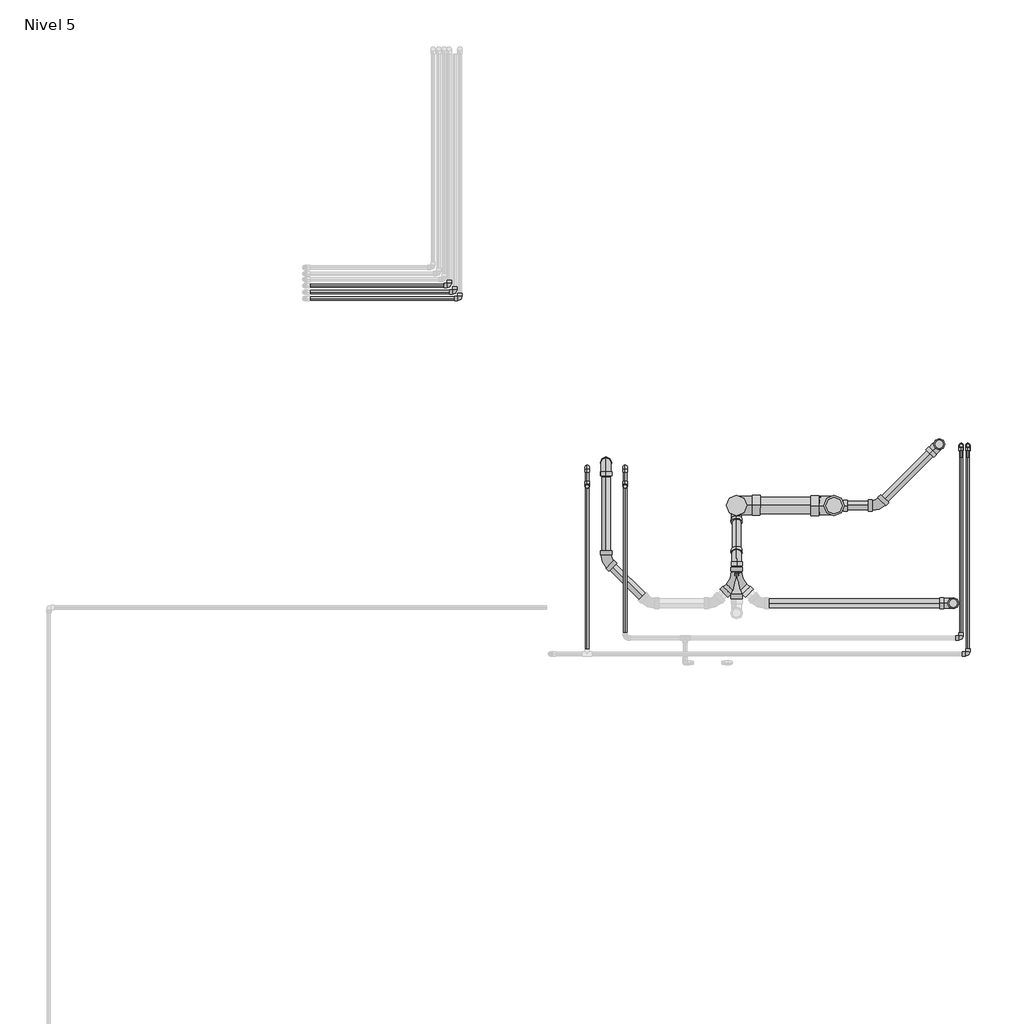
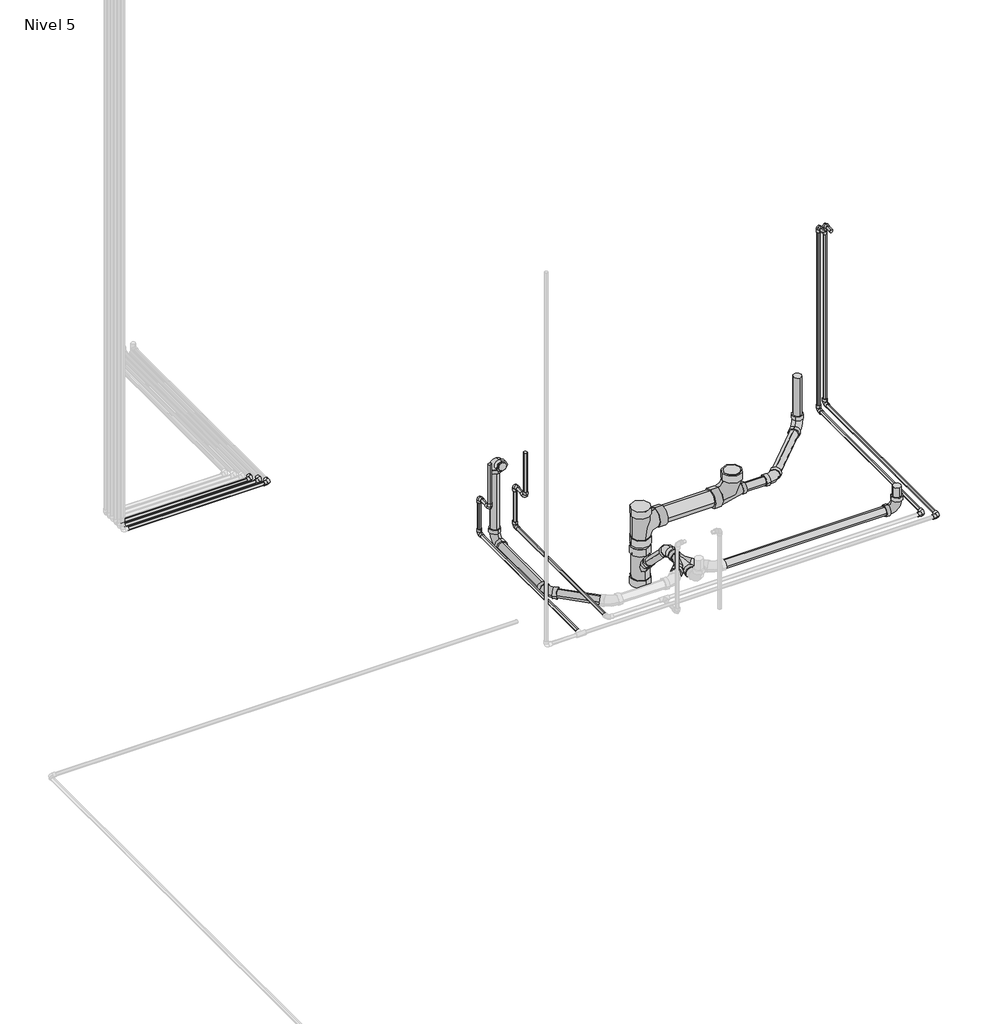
# One storey, part 4 of 6: 30 pipe segments, 26 pipe fittings.
"""IFC4 building model written with IfcOpenShell, lengths in millimetres."""

from ifc_helpers import new_model, si_unit, point, frame, frame_2d, origin, place, context, project, spatial, circle_curve, trimmed, segment, composite_curve, outline, extrude, transform, mapped, element, save
from components import pipe_fitting_2a8dfbef, pipe_fitting_44a425ca, pipe_fitting_a666eca6, pipe_fitting_a40889cd, m_codo_pvc_serie_40_9ad74631, m_codo_pvc_serie_40_ba05d404, m_codo_pvc_serie_40_dwv1_5c0ec739, m_codo_pvc_serie_40_dwv1_6f1a2495, m_codo_pvc_serie_40_dwv1_1ad01535

model = new_model("IFC4")

# Units and contexts
model_context = context("Model", 3, world=origin())
ifc_project = project(units=[si_unit("LENGTHUNIT", "METRE", prefix="MILLI")], contexts=[model_context])

# Site, building, storey
site = spatial("IfcSite", under=ifc_project)
building = spatial("IfcBuilding", under=site)
storey = spatial("IfcBuildingStorey", under=building, Name="Nivel 5", Elevation=10750.0)

# Pipe fittings
placement = place(None, origin())
pipe_fitting_shape = pipe_fitting_2a8dfbef(model_context)
element("IfcPipeFitting", 1, ObjectType="M_Sanitario con te de reducción - PVC - Serie 40 - DWV : Estándar", at=placement, inside=storey, context=model_context, shape_type="MappedRepresentation", body=[
    mapped(pipe_fitting_shape, transform((7432.3114332, 6556.6039726, 10600.0), x_axis=(0.0, 0.0, 1.0), y_axis=(-0.9999959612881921, 0.0028420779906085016, 0.0), z_axis=(-0.0028420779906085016, -0.9999959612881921, 0.0))),
])
pipe_fitting_2_shape = pipe_fitting_44a425ca(model_context)
element("IfcPipeFitting", 2, ObjectType="M_Sanitario con te de reducción - PVC - Serie 40 - DWV : Estándar", at=placement, inside=storey, context=model_context, shape_type="MappedRepresentation", body=[
    mapped(pipe_fitting_2_shape, transform((8039.6967866, 6555.7039726, 10600.0), x_axis=(1.0, 0.0, 0.0), y_axis=(0.0, 0.0, -1.0), z_axis=(0.0, 1.0, 0.0))),
])
pipe_fitting_3_shape = pipe_fitting_a666eca6(model_context)
element("IfcPipeFitting", 3, ObjectType="M_Sanitario con te doble con reducción - PVC - Serie 40 - DWV : Estándar", at=placement, inside=storey, context=model_context, shape_type="MappedRepresentation", body=[
    mapped(pipe_fitting_3_shape, transform((7432.5680049, 6087.6947184, 10600.0), x_axis=(0.0, -1.0, 0.0), y_axis=(-1.0, 0.0, 0.0), z_axis=(0.0, 0.0, -1.0))),
])
pipe_fitting_4_shape = pipe_fitting_a40889cd(model_context)
element("IfcPipeFitting", 4, ObjectType="M_Sanitario con te de reducción - PVC - Serie 40 - DWV : Estándar", at=placement, inside=storey, context=model_context, shape_type="MappedRepresentation", body=[
    mapped(pipe_fitting_4_shape, transform((7432.3114332, 6556.6039726, 10281.4426832), x_axis=(0.0, 0.0, 1.0), y_axis=(-0.001168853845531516, 0.9999993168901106, 0.0), z_axis=(-0.9999993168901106, -0.001168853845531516, 0.0))),
])
m_codo_pvc_serie_40_shape = m_codo_pvc_serie_40_9ad74631(model_context)
element("IfcPipeFitting", 5, ObjectType="M_Codo - PVC - Serie 40 : Estándar", at=placement, inside=storey, context=model_context, shape_type="MappedRepresentation", body=[
    mapped(m_codo_pvc_serie_40_shape, transform((8873.0126322, 5631.6711332, 10700.0), x_axis=(1.0, 0.0, 0.0), y_axis=(0.0, 1.0, 0.0), z_axis=(0.0, 0.0, 1.0))),
])
element("IfcPipeFitting", 6, ObjectType="M_Codo - PVC - Serie 40 : Estándar", at=placement, inside=storey, context=model_context, shape_type="MappedRepresentation", body=[
    mapped(m_codo_pvc_serie_40_shape, transform((8873.0126322, 6931.6711332, 10700.0), x_axis=(0.0, 1.0, 0.0), y_axis=(0.0, 0.0, 1.0), z_axis=(1.0, 0.0, 0.0))),
])
element("IfcPipeFitting", 7, ObjectType="M_Codo - PVC - Serie 40 : Estándar", at=placement, inside=storey, context=model_context, shape_type="MappedRepresentation", body=[
    mapped(m_codo_pvc_serie_40_shape, transform((8873.0126322, 6931.6711332, 11950.0), x_axis=(0.0, 0.0, 1.0), y_axis=(0.0, -1.0, 0.0), z_axis=(1.0, 0.0, 0.0))),
])
element("IfcPipeFitting", 8, ObjectType="M_Codo - PVC - Serie 40 : Estándar", at=placement, inside=storey, context=model_context, shape_type="MappedRepresentation", body=[
    mapped(m_codo_pvc_serie_40_shape, transform((6501.6215833, 6675.0992366, 10950.0), x_axis=(0.0, 0.0, -1.0), y_axis=(0.0, 1.0, 0.0), z_axis=(1.0, 0.0, 0.0))),
])
element("IfcPipeFitting", 9, ObjectType="M_Codo - PVC - Serie 40 : Estándar", at=placement, inside=storey, context=model_context, shape_type="MappedRepresentation", body=[
    mapped(m_codo_pvc_serie_40_shape, transform((6501.6215833, 6795.0992366, 10950.0), x_axis=(0.0, 1.0, 0.0), y_axis=(0.0, 0.0, -1.0), z_axis=(-1.0, 0.0, 0.0))),
])
element("IfcPipeFitting", 10, ObjectType="M_Codo - PVC - Serie 40 : Estándar", at=placement, inside=storey, context=model_context, shape_type="MappedRepresentation", body=[
    mapped(m_codo_pvc_serie_40_shape, transform((6501.6215833, 6795.0992366, 10700.0), x_axis=(0.0, 0.0, -1.0), y_axis=(0.0, -1.0, 0.0), z_axis=(-1.0, 0.0, 0.0))),
])
element("IfcPipeFitting", 11, ObjectType="M_Codo - PVC - Serie 40 : Estándar", at=placement, inside=storey, context=model_context, shape_type="MappedRepresentation", body=[
    mapped(m_codo_pvc_serie_40_shape, transform((8831.6896051, 6931.6711332, 10670.0), x_axis=(0.0, 1.0, 0.0), y_axis=(0.0, 0.0, 1.0), z_axis=(1.0, 0.0, 0.0))),
])
element("IfcPipeFitting", 12, ObjectType="M_Codo - PVC - Serie 40 : Estándar", at=placement, inside=storey, context=model_context, shape_type="MappedRepresentation", body=[
    mapped(m_codo_pvc_serie_40_shape, transform((8831.6896051, 6931.6711332, 11950.0), x_axis=(0.0, 0.0, 1.0), y_axis=(0.0, -1.0, 0.0), z_axis=(1.0, 0.0, 0.0))),
])
element("IfcPipeFitting", 13, ObjectType="M_Codo - PVC - Serie 40 : Estándar", at=placement, inside=storey, context=model_context, shape_type="MappedRepresentation", body=[
    mapped(m_codo_pvc_serie_40_shape, transform((6738.3784167, 6795.0992366, 10670.0), x_axis=(0.0, 0.0, -1.0), y_axis=(0.0, -1.0, 0.0), z_axis=(-1.0, 0.0, 0.0))),
])
element("IfcPipeFitting", 14, ObjectType="M_Codo - PVC - Serie 40 : Estándar", at=placement, inside=storey, context=model_context, shape_type="MappedRepresentation", body=[
    mapped(m_codo_pvc_serie_40_shape, transform((8831.6896051, 5731.9268515, 10670.0), x_axis=(1.0, 0.0, 0.0), y_axis=(0.0, 1.0, 0.0), z_axis=(0.0, 0.0, 1.0))),
])
element("IfcPipeFitting", 15, ObjectType="M_Codo - PVC - Serie 40 : Estándar", at=placement, inside=storey, context=model_context, shape_type="MappedRepresentation", body=[
    mapped(m_codo_pvc_serie_40_shape, transform((5642.0674476, 7924.5181394, 10700.0), x_axis=(1.0, 0.0, 0.0), y_axis=(0.0, 1.0, 0.0), z_axis=(0.0, 0.0, 1.0))),
])
element("IfcPipeFitting", 16, ObjectType="M_Codo - PVC - Serie 40 : Estándar", at=placement, inside=storey, context=model_context, shape_type="MappedRepresentation", body=[
    mapped(m_codo_pvc_serie_40_shape, transform((5676.6630441, 7884.5181394, 10700.0), x_axis=(1.0, 0.0, 0.0), y_axis=(0.0, 1.0, 0.0), z_axis=(0.0, 0.0, 1.0))),
])
element("IfcPipeFitting", 17, ObjectType="M_Codo - PVC - Serie 40 : Estándar", at=placement, inside=storey, context=model_context, shape_type="MappedRepresentation", body=[
    mapped(m_codo_pvc_serie_40_shape, transform((5709.5674476, 7844.5181394, 10700.0), x_axis=(1.0, 0.0, 0.0), y_axis=(0.0, 1.0, 0.0), z_axis=(0.0, 0.0, 1.0))),
])
m_codo_pvc_serie_40_2_shape = m_codo_pvc_serie_40_ba05d404(model_context)
element("IfcPipeFitting", 18, ObjectType="M_Codo - PVC - Serie 40 : Estándar", at=placement, inside=storey, context=model_context, shape_type="MappedRepresentation", body=[
    mapped(m_codo_pvc_serie_40_2_shape, transform((6738.3784167, 6675.0992366, 10950.0), x_axis=(0.0, 0.0, -1.0), y_axis=(0.0, -1.0, 0.0), z_axis=(-1.0, 0.0, 0.0))),
])
element("IfcPipeFitting", 19, ObjectType="M_Codo - PVC - Serie 40 : Estándar", at=placement, inside=storey, context=model_context, shape_type="MappedRepresentation", body=[
    mapped(m_codo_pvc_serie_40_2_shape, transform((6738.3784167, 6795.0992366, 10950.0), x_axis=(0.0, 1.0, 0.0), y_axis=(0.0, 0.0, 1.0), z_axis=(1.0, 0.0, 0.0))),
])
m_codo_pvc_serie_40_dwv1_shape = m_codo_pvc_serie_40_dwv1_5c0ec739(model_context)
element("IfcPipeFitting", 20, ObjectType="M_Codo - PVC - Serie 40 - DWV1 : Estándar 2", at=placement, inside=storey, context=model_context, shape_type="MappedRepresentation", body=[
    mapped(m_codo_pvc_serie_40_dwv1_shape, transform((6620.0, 6822.9419634, 11160.6716548), x_axis=(0.0, 1.0, 0.0), y_axis=(0.0, 0.0, -1.0), z_axis=(-1.0, 0.0, 0.0))),
])
element("IfcPipeFitting", 21, ObjectType="M_Codo - PVC - Serie 40 - DWV1 : Estándar 2", at=placement, inside=storey, context=model_context, shape_type="MappedRepresentation", body=[
    mapped(m_codo_pvc_serie_40_dwv1_shape, transform((6620.0, 6822.9419634, 10600.0), x_axis=(0.0, 0.0, -1.0), y_axis=(0.0, -1.0, 0.0), z_axis=(-1.0, 0.0, 0.0))),
])
element("IfcPipeFitting", 22, ObjectType="M_Codo - PVC - Serie 40 - DWV1 : Estándar 2", at=placement, inside=storey, context=model_context, shape_type="MappedRepresentation", body=[
    mapped(m_codo_pvc_serie_40_dwv1_shape, transform((8694.3719899, 6937.5416345, 10600.0), x_axis=(0.7071067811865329, 0.7071067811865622, 0.0), y_axis=(0.0, 0.0, 1.0), z_axis=(0.7071067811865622, -0.7071067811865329, 0.0))),
])
element("IfcPipeFitting", 23, ObjectType="M_Codo - PVC - Serie 40 - DWV1 : Estándar 2", at=placement, inside=storey, context=model_context, shape_type="MappedRepresentation", body=[
    mapped(m_codo_pvc_serie_40_dwv1_shape, transform((8781.5089391, 5947.7956387, 10600.0), x_axis=(1.0, 0.0, 0.0), y_axis=(0.0, 0.0, 1.0), z_axis=(0.0, -1.0, 0.0))),
])
m_codo_pvc_serie_40_dwv1_2_shape = m_codo_pvc_serie_40_dwv1_6f1a2495(model_context)
element("IfcPipeFitting", 24, ObjectType="M_Codo - PVC - Serie 40 - DWV1 : Estándar 2", at=placement, inside=storey, context=model_context, shape_type="MappedRepresentation", body=[
    mapped(m_codo_pvc_serie_40_dwv1_2_shape, transform((6620.0, 6215.0, 10600.0), x_axis=(0.0, -1.0, 0.0), y_axis=(1.0, 0.0, 0.0), z_axis=(0.0, 0.0, 1.0))),
])
element("IfcPipeFitting", 25, ObjectType="M_Codo - PVC - Serie 40 - DWV1 : Estándar 2", at=placement, inside=storey, context=model_context, shape_type="MappedRepresentation", body=[
    mapped(m_codo_pvc_serie_40_dwv1_2_shape, transform((8312.5343281, 6556.1867102, 10600.0), x_axis=(1.0, 0.0, 0.0), y_axis=(0.0, 1.0, 0.0), z_axis=(0.0, 0.0, 1.0))),
])
m_codo_pvc_serie_40_dwv1_3_shape = m_codo_pvc_serie_40_dwv1_1ad01535(model_context)
element("IfcPipeFitting", 26, ObjectType="M_Codo - PVC - Serie 40 - DWV1 : Estándar 2", at=placement, inside=storey, context=model_context, shape_type="MappedRepresentation", body=[
    mapped(m_codo_pvc_serie_40_dwv1_3_shape, transform((7432.6837803, 6238.0467912, 10599.9998647), x_axis=(0.0, 1.0, 0.0), y_axis=(-0.0011688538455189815, 0.0, -0.9999993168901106), z_axis=(-0.9999993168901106, 0.0, 0.0011688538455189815))),
])

# Pipe segments
element("IfcPipeSegment", 27, ObjectType="Tuberia PVC VENTILACION", at=placement, inside=storey, context=model_context, shape_type="SweptSolid", body=[
    extrude(outline(composite_curve([segment(trimmed(circle_curve(frame_2d((6556.1867102, 10600.0)), 26.9875), [point((6529.1992102, 10600.0))], [point((6556.1867102, 10626.9875))], False, "CARTESIAN"), True, "CONTINUOUS"), segment(trimmed(circle_curve(frame_2d((6556.1867102, 10600.0)), 26.9875), [point((6556.1867102, 10626.9875))], [point((6583.1742102, 10600.0))], False, "CARTESIAN"), True, "CONTINUOUS"), segment(trimmed(circle_curve(frame_2d((6556.1867102, 10600.0)), 26.9875), [point((6583.1742102, 10600.0))], [point((6556.1867102, 10573.0125))], False, "CARTESIAN"), True, "CONTINUOUS"), segment(trimmed(circle_curve(frame_2d((6556.1867102, 10600.0)), 26.9875), [point((6556.1867102, 10573.0125))], [point((6529.1992102, 10600.0))], False, "CARTESIAN"), True, "CONTINUOUS")], self_intersect=False)), frame((8121.6263281, 0.0, 0.0), z_axis=(1.0, 0.0, 0.0), x_axis=(0.0, 1.0, 0.0)), (0.0, 0.0, 1.0), 130.4798125),
])
element("IfcPipeSegment", 28, ObjectType="Tuberia PVC VENTILACION", at=placement, inside=storey, context=model_context, shape_type="SweptSolid", body=[
    extrude(outline(composite_curve([segment(trimmed(circle_curve(frame_2d((0.0, 26.9875)), 26.9875), [point((26.9875001, 26.9875))], [point((0.0, 0.0))], False, "CARTESIAN"), True, "CONTINUOUS"), segment(trimmed(circle_curve(frame_2d((0.0, 26.9875)), 26.9875), [point((0.0, 0.0))], [point((-26.9874999, 26.9875))], False, "CARTESIAN"), True, "CONTINUOUS"), segment(trimmed(circle_curve(frame_2d((0.0, 26.9875)), 26.9875), [point((-26.9874999, 26.9875))], [point((0.0, 53.975))], False, "CARTESIAN"), True, "CONTINUOUS"), segment(trimmed(circle_curve(frame_2d((0.0, 26.9875)), 26.9875), [point((0.0, 53.975))], [point((26.9875001, 26.9875))], False, "CARTESIAN"), True, "CONTINUOUS")], self_intersect=False)), frame((8355.2635092, 6598.9158914, 10626.9875), z_axis=(0.7071067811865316, 0.7071067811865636, 0.0), x_axis=(0.7071067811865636, -0.7071067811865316, 0.0)), (0.0, 0.0, 1.0), 396.688403),
])
element("IfcPipeSegment", 29, ObjectType="Tuberia PVC VENTILACION", at=placement, inside=storey, context=model_context, shape_type="SweptSolid", body=[
    extrude(outline(composite_curve([segment(trimmed(circle_curve(frame_2d((8694.3719899, 6937.5416345)), 26.9875), [point((8721.3594899, 6937.5416345))], [point((8694.3719899, 6910.5541345))], False, "CARTESIAN"), True, "CONTINUOUS"), segment(trimmed(circle_curve(frame_2d((8694.3719899, 6937.5416345)), 26.9875), [point((8694.3719899, 6910.5541345))], [point((8667.3844899, 6937.5416345))], False, "CARTESIAN"), True, "CONTINUOUS"), segment(trimmed(circle_curve(frame_2d((8694.3719899, 6937.5416345)), 26.9875), [point((8667.3844899, 6937.5416345))], [point((8694.3719899, 6964.5291345))], False, "CARTESIAN"), True, "CONTINUOUS"), segment(trimmed(circle_curve(frame_2d((8694.3719899, 6937.5416345)), 26.9875), [point((8694.3719899, 6964.5291345))], [point((8721.3594899, 6937.5416345))], False, "CARTESIAN"), True, "CONTINUOUS")], self_intersect=False)), frame((0.0, 0.0, 10682.5420625), z_axis=(0.0, 0.0, 1.0), x_axis=(1.0, 0.0, 0.0)), (0.0, 0.0, 1.0), 267.4579375),
])
element("IfcPipeSegment", 30, ObjectType="Tuberia PVC Agua Fria", at=placement, inside=storey, context=model_context, shape_type="SweptSolid", body=[
    extrude(outline(composite_curve([segment(trimmed(circle_curve(frame_2d((10700.0, 8873.0126322)), 10.31875), [point((10700.0, 8883.3313822))], [point((10710.31875, 8873.0126322))], False, "CARTESIAN"), True, "CONTINUOUS"), segment(trimmed(circle_curve(frame_2d((10700.0, 8873.0126322)), 10.31875), [point((10710.31875, 8873.0126322))], [point((10700.0, 8862.6938822))], False, "CARTESIAN"), True, "CONTINUOUS"), segment(trimmed(circle_curve(frame_2d((10700.0, 8873.0126322)), 10.31875), [point((10700.0, 8862.6938822))], [point((10689.68125, 8873.0126322))], False, "CARTESIAN"), True, "CONTINUOUS"), segment(trimmed(circle_curve(frame_2d((10700.0, 8873.0126322)), 10.31875), [point((10689.68125, 8873.0126322))], [point((10700.0, 8883.3313822))], False, "CARTESIAN"), True, "CONTINUOUS")], self_intersect=False)), frame((0.0, 5665.0721332, 0.0), z_axis=(0.0, 1.0, 0.0), x_axis=(0.0, 0.0, 1.0)), (0.0, 0.0, 1.0), 1233.198),
])
element("IfcPipeSegment", 31, ObjectType="Tuberia PVC Agua Fria", at=placement, inside=storey, context=model_context, shape_type="SweptSolid", body=[
    extrude(outline(composite_curve([segment(trimmed(circle_curve(frame_2d((11950.0, 8873.0126322)), 10.31875), [point((11950.0, 8862.6938822))], [point((11939.68125, 8873.0126322))], False, "CARTESIAN"), True, "CONTINUOUS"), segment(trimmed(circle_curve(frame_2d((11950.0, 8873.0126322)), 10.31875), [point((11939.68125, 8873.0126322))], [point((11950.0, 8883.3313822))], False, "CARTESIAN"), True, "CONTINUOUS"), segment(trimmed(circle_curve(frame_2d((11950.0, 8873.0126322)), 10.31875), [point((11950.0, 8883.3313822))], [point((11960.31875, 8873.0126322))], False, "CARTESIAN"), True, "CONTINUOUS"), segment(trimmed(circle_curve(frame_2d((11950.0, 8873.0126322)), 10.31875), [point((11960.31875, 8873.0126322))], [point((11950.0, 8862.6938822))], False, "CARTESIAN"), True, "CONTINUOUS")], self_intersect=False)), frame((0.0, 6856.6711332, 0.0), z_axis=(0.0, 1.0, 0.0), x_axis=(0.0, 0.0, 1.0)), (0.0, 0.0, 1.0), 41.599),
])
element("IfcPipeSegment", 32, ObjectType="Tuberia PVC Agua Fria", at=placement, inside=storey, context=model_context, shape_type="SweptSolid", body=[
    extrude(outline(composite_curve([segment(trimmed(circle_curve(frame_2d((8873.0126322, 6931.6711332)), 10.31875), [point((8862.6938822, 6931.6711332))], [point((8873.0126322, 6941.9898832))], False, "CARTESIAN"), True, "CONTINUOUS"), segment(trimmed(circle_curve(frame_2d((8873.0126322, 6931.6711332)), 10.31875), [point((8873.0126322, 6941.9898832))], [point((8883.3313822, 6931.6711332))], False, "CARTESIAN"), True, "CONTINUOUS"), segment(trimmed(circle_curve(frame_2d((8873.0126322, 6931.6711332)), 10.31875), [point((8883.3313822, 6931.6711332))], [point((8873.0126322, 6921.3523832))], False, "CARTESIAN"), True, "CONTINUOUS"), segment(trimmed(circle_curve(frame_2d((8873.0126322, 6931.6711332)), 10.31875), [point((8873.0126322, 6921.3523832))], [point((8862.6938822, 6931.6711332))], False, "CARTESIAN"), True, "CONTINUOUS")], self_intersect=False)), frame((0.0, 0.0, 10733.401), z_axis=(0.0, 0.0, 1.0), x_axis=(1.0, 0.0, 0.0)), (0.0, 0.0, 1.0), 1183.198),
])
element("IfcPipeSegment", 33, ObjectType="Tuberia PVC Agua Fria", at=placement, inside=storey, context=model_context, shape_type="SweptSolid", body=[
    extrude(outline(composite_curve([segment(trimmed(circle_curve(frame_2d((10950.0, 6501.6215833)), 10.31875), [point((10950.0, 6511.9403333))], [point((10960.31875, 6501.6215833))], False, "CARTESIAN"), True, "CONTINUOUS"), segment(trimmed(circle_curve(frame_2d((10950.0, 6501.6215833)), 10.31875), [point((10960.31875, 6501.6215833))], [point((10950.0, 6491.3028333))], False, "CARTESIAN"), True, "CONTINUOUS"), segment(trimmed(circle_curve(frame_2d((10950.0, 6501.6215833)), 10.31875), [point((10950.0, 6491.3028333))], [point((10939.68125, 6501.6215833))], False, "CARTESIAN"), True, "CONTINUOUS"), segment(trimmed(circle_curve(frame_2d((10950.0, 6501.6215833)), 10.31875), [point((10939.68125, 6501.6215833))], [point((10950.0, 6511.9403333))], False, "CARTESIAN"), True, "CONTINUOUS")], self_intersect=False)), frame((0.0, 6708.5002366, 0.0), z_axis=(0.0, 1.0, 0.0), x_axis=(0.0, 0.0, 1.0)), (0.0, 0.0, 1.0), 53.198),
])
element("IfcPipeSegment", 34, ObjectType="Tuberia PVC Agua Fria", at=placement, inside=storey, context=model_context, shape_type="SweptSolid", body=[
    extrude(outline(composite_curve([segment(trimmed(circle_curve(frame_2d((6501.6215833, 6675.0992366)), 10.31875), [point((6511.9403333, 6675.0992366))], [point((6501.6215833, 6664.7804866))], False, "CARTESIAN"), True, "CONTINUOUS"), segment(trimmed(circle_curve(frame_2d((6501.6215833, 6675.0992366)), 10.31875), [point((6501.6215833, 6664.7804866))], [point((6491.3028333, 6675.0992366))], False, "CARTESIAN"), True, "CONTINUOUS"), segment(trimmed(circle_curve(frame_2d((6501.6215833, 6675.0992366)), 10.31875), [point((6491.3028333, 6675.0992366))], [point((6501.6215833, 6685.4179866))], False, "CARTESIAN"), True, "CONTINUOUS"), segment(trimmed(circle_curve(frame_2d((6501.6215833, 6675.0992366)), 10.31875), [point((6501.6215833, 6685.4179866))], [point((6511.9403333, 6675.0992366))], False, "CARTESIAN"), True, "CONTINUOUS")], self_intersect=False)), frame((0.0, 0.0, 10983.401), z_axis=(0.0, 0.0, 1.0), x_axis=(1.0, 0.0, 0.0)), (0.0, 0.0, 1.0), 274.0983614),
])
element("IfcPipeSegment", 35, ObjectType="Tuberia PVC Agua Fria", at=placement, inside=storey, context=model_context, shape_type="SweptSolid", body=[
    extrude(outline(composite_curve([segment(trimmed(circle_curve(frame_2d((10700.0, 6501.6215833)), 10.31875), [point((10700.0, 6511.9403333))], [point((10710.31875, 6501.6215833))], False, "CARTESIAN"), True, "CONTINUOUS"), segment(trimmed(circle_curve(frame_2d((10700.0, 6501.6215833)), 10.31875), [point((10710.31875, 6501.6215833))], [point((10700.0, 6491.3028333))], False, "CARTESIAN"), True, "CONTINUOUS"), segment(trimmed(circle_curve(frame_2d((10700.0, 6501.6215833)), 10.31875), [point((10700.0, 6491.3028333))], [point((10689.68125, 6501.6215833))], False, "CARTESIAN"), True, "CONTINUOUS"), segment(trimmed(circle_curve(frame_2d((10700.0, 6501.6215833)), 10.31875), [point((10689.68125, 6501.6215833))], [point((10700.0, 6511.9403333))], False, "CARTESIAN"), True, "CONTINUOUS")], self_intersect=False)), frame((0.0, 5662.1312895, 0.0), z_axis=(0.0, 1.0, 0.0), x_axis=(0.0, 0.0, 1.0)), (0.0, 0.0, 1.0), 1099.5669472),
])
element("IfcPipeSegment", 36, ObjectType="Tuberia PVC Agua Fria", at=placement, inside=storey, context=model_context, shape_type="SweptSolid", body=[
    extrude(outline(composite_curve([segment(trimmed(circle_curve(frame_2d((6501.6215833, 6795.0992366)), 10.31875), [point((6511.9403333, 6795.0992366))], [point((6501.6215833, 6784.7804866))], False, "CARTESIAN"), True, "CONTINUOUS"), segment(trimmed(circle_curve(frame_2d((6501.6215833, 6795.0992366)), 10.31875), [point((6501.6215833, 6784.7804866))], [point((6491.3028333, 6795.0992366))], False, "CARTESIAN"), True, "CONTINUOUS"), segment(trimmed(circle_curve(frame_2d((6501.6215833, 6795.0992366)), 10.31875), [point((6491.3028333, 6795.0992366))], [point((6501.6215833, 6805.4179866))], False, "CARTESIAN"), True, "CONTINUOUS"), segment(trimmed(circle_curve(frame_2d((6501.6215833, 6795.0992366)), 10.31875), [point((6501.6215833, 6805.4179866))], [point((6511.9403333, 6795.0992366))], False, "CARTESIAN"), True, "CONTINUOUS")], self_intersect=False)), frame((0.0, 0.0, 10733.401), z_axis=(0.0, 0.0, 1.0), x_axis=(1.0, 0.0, 0.0)), (0.0, 0.0, 1.0), 183.198),
])
element("IfcPipeSegment", 37, ObjectType="Tuberia PVC Agua Fria", at=placement, inside=storey, context=model_context, shape_type="SweptSolid", body=[
    extrude(outline(composite_curve([segment(trimmed(circle_curve(frame_2d((7924.5181394, 10700.0)), 10.31875), [point((7934.8368894, 10700.0))], [point((7924.5181394, 10689.68125))], False, "CARTESIAN"), True, "CONTINUOUS"), segment(trimmed(circle_curve(frame_2d((7924.5181394, 10700.0)), 10.31875), [point((7924.5181394, 10689.68125))], [point((7914.1993894, 10700.0))], False, "CARTESIAN"), True, "CONTINUOUS"), segment(trimmed(circle_curve(frame_2d((7924.5181394, 10700.0)), 10.31875), [point((7914.1993894, 10700.0))], [point((7924.5181394, 10710.31875))], False, "CARTESIAN"), True, "CONTINUOUS"), segment(trimmed(circle_curve(frame_2d((7924.5181394, 10700.0)), 10.31875), [point((7924.5181394, 10710.31875))], [point((7934.8368894, 10700.0))], False, "CARTESIAN"), True, "CONTINUOUS")], self_intersect=False)), frame((4775.0640441, 0.0, 0.0), z_axis=(1.0, 0.0, 0.0), x_axis=(0.0, 1.0, 0.0)), (0.0, 0.0, 1.0), 833.6024036),
])
element("IfcPipeSegment", 38, ObjectType="Tuberia PVC Agua Fria", at=placement, inside=storey, context=model_context, shape_type="SweptSolid", body=[
    extrude(outline(composite_curve([segment(trimmed(circle_curve(frame_2d((7884.5181394, 10700.0)), 10.31875), [point((7894.8368894, 10700.0))], [point((7884.5181394, 10689.68125))], False, "CARTESIAN"), True, "CONTINUOUS"), segment(trimmed(circle_curve(frame_2d((7884.5181394, 10700.0)), 10.31875), [point((7884.5181394, 10689.68125))], [point((7874.1993894, 10700.0))], False, "CARTESIAN"), True, "CONTINUOUS"), segment(trimmed(circle_curve(frame_2d((7884.5181394, 10700.0)), 10.31875), [point((7874.1993894, 10700.0))], [point((7884.5181394, 10710.31875))], False, "CARTESIAN"), True, "CONTINUOUS"), segment(trimmed(circle_curve(frame_2d((7884.5181394, 10700.0)), 10.31875), [point((7884.5181394, 10710.31875))], [point((7894.8368894, 10700.0))], False, "CARTESIAN"), True, "CONTINUOUS")], self_intersect=False)), frame((4775.0640441, 0.0, 0.0), z_axis=(1.0, 0.0, 0.0), x_axis=(0.0, 1.0, 0.0)), (0.0, 0.0, 1.0), 868.198),
])
element("IfcPipeSegment", 39, ObjectType="Tuberia PVC Agua Fria", at=placement, inside=storey, context=model_context, shape_type="SweptSolid", body=[
    extrude(outline(composite_curve([segment(trimmed(circle_curve(frame_2d((7844.5181394, 10700.0)), 10.31875), [point((7854.8368894, 10700.0))], [point((7844.5181394, 10689.68125))], False, "CARTESIAN"), True, "CONTINUOUS"), segment(trimmed(circle_curve(frame_2d((7844.5181394, 10700.0)), 10.31875), [point((7844.5181394, 10689.68125))], [point((7834.1993894, 10700.0))], False, "CARTESIAN"), True, "CONTINUOUS"), segment(trimmed(circle_curve(frame_2d((7844.5181394, 10700.0)), 10.31875), [point((7834.1993894, 10700.0))], [point((7844.5181394, 10710.31875))], False, "CARTESIAN"), True, "CONTINUOUS"), segment(trimmed(circle_curve(frame_2d((7844.5181394, 10700.0)), 10.31875), [point((7844.5181394, 10710.31875))], [point((7854.8368894, 10700.0))], False, "CARTESIAN"), True, "CONTINUOUS")], self_intersect=False)), frame((4775.0640441, 0.0, 0.0), z_axis=(1.0, 0.0, 0.0), x_axis=(0.0, 1.0, 0.0)), (0.0, 0.0, 1.0), 901.1024036),
])
element("IfcPipeSegment", 40, ObjectType="Tuberia PVC Agua Caliente", at=placement, inside=storey, context=model_context, shape_type="SweptSolid", body=[
    extrude(outline(composite_curve([segment(trimmed(circle_curve(frame_2d((10950.0, 6738.3784167)), 10.31875), [point((10950.0, 6748.6971667))], [point((10960.31875, 6738.3784167))], False, "CARTESIAN"), True, "CONTINUOUS"), segment(trimmed(circle_curve(frame_2d((10950.0, 6738.3784167)), 10.31875), [point((10960.31875, 6738.3784167))], [point((10950.0, 6728.0596667))], False, "CARTESIAN"), True, "CONTINUOUS"), segment(trimmed(circle_curve(frame_2d((10950.0, 6738.3784167)), 10.31875), [point((10950.0, 6728.0596667))], [point((10939.68125, 6738.3784167))], False, "CARTESIAN"), True, "CONTINUOUS"), segment(trimmed(circle_curve(frame_2d((10950.0, 6738.3784167)), 10.31875), [point((10939.68125, 6738.3784167))], [point((10950.0, 6748.6971667))], False, "CARTESIAN"), True, "CONTINUOUS")], self_intersect=False)), frame((0.0, 6708.5002366, 0.0), z_axis=(0.0, 1.0, 0.0), x_axis=(0.0, 0.0, 1.0)), (0.0, 0.0, 1.0), 53.198),
])
element("IfcPipeSegment", 41, ObjectType="Tuberia PVC Agua Caliente", at=placement, inside=storey, context=model_context, shape_type="SweptSolid", body=[
    extrude(outline(composite_curve([segment(trimmed(circle_curve(frame_2d((6738.3784167, 6675.0992366)), 10.31875), [point((6748.6971667, 6675.0992366))], [point((6738.3784167, 6664.7804866))], False, "CARTESIAN"), True, "CONTINUOUS"), segment(trimmed(circle_curve(frame_2d((6738.3784167, 6675.0992366)), 10.31875), [point((6738.3784167, 6664.7804866))], [point((6728.0596667, 6675.0992366))], False, "CARTESIAN"), True, "CONTINUOUS"), segment(trimmed(circle_curve(frame_2d((6738.3784167, 6675.0992366)), 10.31875), [point((6728.0596667, 6675.0992366))], [point((6738.3784167, 6685.4179866))], False, "CARTESIAN"), True, "CONTINUOUS"), segment(trimmed(circle_curve(frame_2d((6738.3784167, 6675.0992366)), 10.31875), [point((6738.3784167, 6685.4179866))], [point((6748.6971667, 6675.0992366))], False, "CARTESIAN"), True, "CONTINUOUS")], self_intersect=False)), frame((0.0, 0.0, 10983.401), z_axis=(0.0, 0.0, 1.0), x_axis=(1.0, 0.0, 0.0)), (0.0, 0.0, 1.0), 274.0983614),
])
element("IfcPipeSegment", 42, ObjectType="Tuberia PVC Agua Caliente", at=placement, inside=storey, context=model_context, shape_type="SweptSolid", body=[
    extrude(outline(composite_curve([segment(trimmed(circle_curve(frame_2d((6738.3784167, 6795.0992366)), 10.31875), [point((6748.6971667, 6795.0992366))], [point((6738.3784167, 6784.7804866))], False, "CARTESIAN"), True, "CONTINUOUS"), segment(trimmed(circle_curve(frame_2d((6738.3784167, 6795.0992366)), 10.31875), [point((6738.3784167, 6784.7804866))], [point((6728.0596667, 6795.0992366))], False, "CARTESIAN"), True, "CONTINUOUS"), segment(trimmed(circle_curve(frame_2d((6738.3784167, 6795.0992366)), 10.31875), [point((6728.0596667, 6795.0992366))], [point((6738.3784167, 6805.4179866))], False, "CARTESIAN"), True, "CONTINUOUS"), segment(trimmed(circle_curve(frame_2d((6738.3784167, 6795.0992366)), 10.31875), [point((6738.3784167, 6805.4179866))], [point((6748.6971667, 6795.0992366))], False, "CARTESIAN"), True, "CONTINUOUS")], self_intersect=False)), frame((0.0, 0.0, 10703.401), z_axis=(0.0, 0.0, 1.0), x_axis=(1.0, 0.0, 0.0)), (0.0, 0.0, 1.0), 213.198),
])
element("IfcPipeSegment", 43, ObjectType="Tuberia PVC Agua Caliente", at=placement, inside=storey, context=model_context, shape_type="SweptSolid", body=[
    extrude(outline(composite_curve([segment(trimmed(circle_curve(frame_2d((10670.0, 8831.6896051)), 10.31875), [point((10670.0, 8842.0083551))], [point((10680.31875, 8831.6896051))], False, "CARTESIAN"), True, "CONTINUOUS"), segment(trimmed(circle_curve(frame_2d((10670.0, 8831.6896051)), 10.31875), [point((10680.31875, 8831.6896051))], [point((10670.0, 8821.3708551))], False, "CARTESIAN"), True, "CONTINUOUS"), segment(trimmed(circle_curve(frame_2d((10670.0, 8831.6896051)), 10.31875), [point((10670.0, 8821.3708551))], [point((10659.68125, 8831.6896051))], False, "CARTESIAN"), True, "CONTINUOUS"), segment(trimmed(circle_curve(frame_2d((10670.0, 8831.6896051)), 10.31875), [point((10659.68125, 8831.6896051))], [point((10670.0, 8842.0083551))], False, "CARTESIAN"), True, "CONTINUOUS")], self_intersect=False)), frame((0.0, 5765.3278515, 0.0), z_axis=(0.0, 1.0, 0.0), x_axis=(0.0, 0.0, 1.0)), (0.0, 0.0, 1.0), 1132.9422818),
])
element("IfcPipeSegment", 44, ObjectType="Tuberia PVC Agua Caliente", at=placement, inside=storey, context=model_context, shape_type="SweptSolid", body=[
    extrude(outline(composite_curve([segment(trimmed(circle_curve(frame_2d((11950.0, 8831.6896051)), 10.31875), [point((11950.0, 8821.3708551))], [point((11939.68125, 8831.6896051))], False, "CARTESIAN"), True, "CONTINUOUS"), segment(trimmed(circle_curve(frame_2d((11950.0, 8831.6896051)), 10.31875), [point((11939.68125, 8831.6896051))], [point((11950.0, 8842.0083551))], False, "CARTESIAN"), True, "CONTINUOUS"), segment(trimmed(circle_curve(frame_2d((11950.0, 8831.6896051)), 10.31875), [point((11950.0, 8842.0083551))], [point((11960.31875, 8831.6896051))], False, "CARTESIAN"), True, "CONTINUOUS"), segment(trimmed(circle_curve(frame_2d((11950.0, 8831.6896051)), 10.31875), [point((11960.31875, 8831.6896051))], [point((11950.0, 8821.3708551))], False, "CARTESIAN"), True, "CONTINUOUS")], self_intersect=False)), frame((0.0, 6856.6711332, 0.0), z_axis=(0.0, 1.0, 0.0), x_axis=(0.0, 0.0, 1.0)), (0.0, 0.0, 1.0), 41.599),
])
element("IfcPipeSegment", 45, ObjectType="Tuberia PVC Agua Caliente", at=placement, inside=storey, context=model_context, shape_type="SweptSolid", body=[
    extrude(outline(composite_curve([segment(trimmed(circle_curve(frame_2d((8831.6896051, 6931.6711332)), 10.31875), [point((8821.3708551, 6931.6711332))], [point((8831.6896051, 6941.9898832))], False, "CARTESIAN"), True, "CONTINUOUS"), segment(trimmed(circle_curve(frame_2d((8831.6896051, 6931.6711332)), 10.31875), [point((8831.6896051, 6941.9898832))], [point((8842.0083551, 6931.6711332))], False, "CARTESIAN"), True, "CONTINUOUS"), segment(trimmed(circle_curve(frame_2d((8831.6896051, 6931.6711332)), 10.31875), [point((8842.0083551, 6931.6711332))], [point((8831.6896051, 6921.3523832))], False, "CARTESIAN"), True, "CONTINUOUS"), segment(trimmed(circle_curve(frame_2d((8831.6896051, 6931.6711332)), 10.31875), [point((8831.6896051, 6921.3523832))], [point((8821.3708551, 6931.6711332))], False, "CARTESIAN"), True, "CONTINUOUS")], self_intersect=False)), frame((0.0, 0.0, 10703.401), z_axis=(0.0, 0.0, 1.0), x_axis=(1.0, 0.0, 0.0)), (0.0, 0.0, 1.0), 1213.198),
])
element("IfcPipeSegment", 46, ObjectType="Tuberia PVC Agua Caliente", at=placement, inside=storey, context=model_context, shape_type="SweptSolid", body=[
    extrude(outline(composite_curve([segment(trimmed(circle_curve(frame_2d((10670.0, 6738.3784167)), 10.31875), [point((10670.0, 6728.0596667))], [point((10659.68125, 6738.3784167))], False, "CARTESIAN"), True, "CONTINUOUS"), segment(trimmed(circle_curve(frame_2d((10670.0, 6738.3784167)), 10.31875), [point((10659.68125, 6738.3784167))], [point((10670.0, 6748.6971667))], False, "CARTESIAN"), True, "CONTINUOUS"), segment(trimmed(circle_curve(frame_2d((10670.0, 6738.3784167)), 10.31875), [point((10670.0, 6748.6971667))], [point((10680.31875, 6738.3784167))], False, "CARTESIAN"), True, "CONTINUOUS"), segment(trimmed(circle_curve(frame_2d((10670.0, 6738.3784167)), 10.31875), [point((10680.31875, 6738.3784167))], [point((10670.0, 6728.0596667))], False, "CARTESIAN"), True, "CONTINUOUS")], self_intersect=False)), frame((0.0, 5765.3278515, 0.0), z_axis=(0.0, 1.0, 0.0), x_axis=(0.0, 0.0, 1.0)), (0.0, 0.0, 1.0), 996.3703852),
])
element("IfcPipeSegment", 47, ObjectType="Tuberia PVC Sanitario", at=placement, inside=storey, context=model_context, shape_type="SweptSolid", body=[
    extrude(outline(composite_curve([segment(trimmed(circle_curve(frame_2d((5947.7956387, 10600.0)), 26.9875), [point((5974.7831387, 10600.0))], [point((5947.7956387, 10573.0125))], False, "CARTESIAN"), True, "CONTINUOUS"), segment(trimmed(circle_curve(frame_2d((5947.7956387, 10600.0)), 26.9875), [point((5947.7956387, 10573.0125))], [point((5920.8081387, 10600.0))], False, "CARTESIAN"), True, "CONTINUOUS"), segment(trimmed(circle_curve(frame_2d((5947.7956387, 10600.0)), 26.9875), [point((5920.8081387, 10600.0))], [point((5947.7956387, 10626.9875))], False, "CARTESIAN"), True, "CONTINUOUS"), segment(trimmed(circle_curve(frame_2d((5947.7956387, 10600.0)), 26.9875), [point((5947.7956387, 10626.9875))], [point((5974.7831387, 10600.0))], False, "CARTESIAN"), True, "CONTINUOUS")], self_intersect=False)), frame((7632.8952721, 0.0, 0.0), z_axis=(1.0, 0.0, 0.0), x_axis=(0.0, 1.0, 0.0)), (0.0, 0.0, 1.0), 1066.0716045),
])
element("IfcPipeSegment", 48, ObjectType="Tuberia PVC Sanitario", at=placement, inside=storey, context=model_context, shape_type="SweptSolid", body=[
    extrude(outline(composite_curve([segment(trimmed(circle_curve(frame_2d((6556.1867102, 10600.0)), 52.3875), [point((6608.5742102, 10600.0))], [point((6556.1867102, 10547.6125))], False, "CARTESIAN"), True, "CONTINUOUS"), segment(trimmed(circle_curve(frame_2d((6556.1867102, 10600.0)), 52.3875), [point((6556.1867102, 10547.6125))], [point((6503.7992102, 10600.0))], False, "CARTESIAN"), True, "CONTINUOUS"), segment(trimmed(circle_curve(frame_2d((6556.1867102, 10600.0)), 52.3875), [point((6503.7992102, 10600.0))], [point((6556.1867102, 10652.3875))], False, "CARTESIAN"), True, "CONTINUOUS"), segment(trimmed(circle_curve(frame_2d((6556.1867102, 10600.0)), 52.3875), [point((6556.1867102, 10652.3875))], [point((6608.5742102, 10600.0))], False, "CARTESIAN"), True, "CONTINUOUS")], self_intersect=False)), frame((7579.126809, 0.0, 0.0), z_axis=(1.0, 0.0, 0.0), x_axis=(0.0, 1.0, 0.0)), (0.0, 0.0, 1.0), 316.6752628),
])
element("IfcPipeSegment", 49, ObjectType="Tuberia PVC Sanitario", at=placement, inside=storey, context=model_context, shape_type="SweptSolid", body=[
    extrude(outline(composite_curve([segment(trimmed(circle_curve(frame_2d((8039.6967866, 6555.7039726)), 52.3875), [point((8092.0842866, 6555.7039726))], [point((8039.6967866, 6503.3164726))], False, "CARTESIAN"), True, "CONTINUOUS"), segment(trimmed(circle_curve(frame_2d((8039.6967866, 6555.7039726)), 52.3875), [point((8039.6967866, 6503.3164726))], [point((7987.3092866, 6555.7039726))], False, "CARTESIAN"), True, "CONTINUOUS"), segment(trimmed(circle_curve(frame_2d((8039.6967866, 6555.7039726)), 52.3875), [point((7987.3092866, 6555.7039726))], [point((8039.6967866, 6608.0914726))], False, "CARTESIAN"), True, "CONTINUOUS"), segment(trimmed(circle_curve(frame_2d((8039.6967866, 6555.7039726)), 52.3875), [point((8039.6967866, 6608.0914726))], [point((8092.0842866, 6555.7039726))], False, "CARTESIAN"), True, "CONTINUOUS")], self_intersect=False)), frame((0.0, 0.0, 10746.8159687), z_axis=(0.0, 0.0, 1.0), x_axis=(1.0, 0.0, 0.0)), (0.0, 0.0, 1.0), 3.1840312),
])
element("IfcPipeSegment", 50, ObjectType="Tuberia PVC Sanitario", at=placement, inside=storey, context=model_context, shape_type="SweptSolid", body=[
    extrude(outline(composite_curve([segment(trimmed(circle_curve(frame_2d((10600.0, 6620.0)), 26.9875), [point((10600.0, 6593.0125))], [point((10573.0125, 6620.0))], False, "CARTESIAN"), True, "CONTINUOUS"), segment(trimmed(circle_curve(frame_2d((10600.0, 6620.0)), 26.9875), [point((10573.0125, 6620.0))], [point((10600.0, 6646.9875))], False, "CARTESIAN"), True, "CONTINUOUS"), segment(trimmed(circle_curve(frame_2d((10600.0, 6620.0)), 26.9875), [point((10600.0, 6646.9875))], [point((10626.9875, 6620.0))], False, "CARTESIAN"), True, "CONTINUOUS"), segment(trimmed(circle_curve(frame_2d((10600.0, 6620.0)), 26.9875), [point((10626.9875, 6620.0))], [point((10600.0, 6593.0125))], False, "CARTESIAN"), True, "CONTINUOUS")], self_intersect=False)), frame((0.0, 6275.4281875, 0.0), z_axis=(0.0, 1.0, 0.0), x_axis=(0.0, 0.0, 1.0)), (0.0, 0.0, 1.0), 464.9717134),
])
element("IfcPipeSegment", 51, ObjectType="Tuberia PVC Sanitario", at=placement, inside=storey, context=model_context, shape_type="SweptSolid", body=[
    extrude(outline(composite_curve([segment(trimmed(circle_curve(frame_2d((11160.6716548, 6620.0)), 26.9875), [point((11160.6716548, 6646.9875))], [point((11187.6591548, 6620.0))], False, "CARTESIAN"), True, "CONTINUOUS"), segment(trimmed(circle_curve(frame_2d((11160.6716548, 6620.0)), 26.9875), [point((11187.6591548, 6620.0))], [point((11160.6716548, 6593.0125))], False, "CARTESIAN"), True, "CONTINUOUS"), segment(trimmed(circle_curve(frame_2d((11160.6716548, 6620.0)), 26.9875), [point((11160.6716548, 6593.0125))], [point((11133.6841548, 6620.0))], False, "CARTESIAN"), True, "CONTINUOUS"), segment(trimmed(circle_curve(frame_2d((11160.6716548, 6620.0)), 26.9875), [point((11133.6841548, 6620.0))], [point((11160.6716548, 6646.9875))], False, "CARTESIAN"), True, "CONTINUOUS")], self_intersect=False)), frame((0.0, 6735.0, 0.0), z_axis=(0.0, 1.0, 0.0), x_axis=(0.0, 0.0, 1.0)), (0.0, 0.0, 1.0), 5.3999009),
])
element("IfcPipeSegment", 52, ObjectType="Tuberia PVC Sanitario", at=placement, inside=storey, context=model_context, shape_type="SweptSolid", body=[
    extrude(outline(composite_curve([segment(trimmed(circle_curve(frame_2d((6620.0, 6822.9419634)), 26.9875), [point((6646.9875, 6822.9419634))], [point((6620.0, 6795.9544634))], False, "CARTESIAN"), True, "CONTINUOUS"), segment(trimmed(circle_curve(frame_2d((6620.0, 6822.9419634)), 26.9875), [point((6620.0, 6795.9544634))], [point((6593.0125, 6822.9419634))], False, "CARTESIAN"), True, "CONTINUOUS"), segment(trimmed(circle_curve(frame_2d((6620.0, 6822.9419634)), 26.9875), [point((6593.0125, 6822.9419634))], [point((6620.0, 6849.9294634))], False, "CARTESIAN"), True, "CONTINUOUS"), segment(trimmed(circle_curve(frame_2d((6620.0, 6822.9419634)), 26.9875), [point((6620.0, 6849.9294634))], [point((6646.9875, 6822.9419634))], False, "CARTESIAN"), True, "CONTINUOUS")], self_intersect=False)), frame((0.0, 0.0, 10682.5420625), z_axis=(0.0, 0.0, 1.0), x_axis=(1.0, 0.0, 0.0)), (0.0, 0.0, 1.0), 395.5875298),
])
element("IfcPipeSegment", 53, ObjectType="Tuberia PVC Sanitario", at=placement, inside=storey, context=model_context, shape_type="SweptSolid", body=[
    extrude(outline(composite_curve([segment(trimmed(circle_curve(frame_2d((0.0, -26.9875)), 26.9875), [point((-26.9875, -26.9875))], [point((0.0, 0.0))], False, "CARTESIAN"), True, "CONTINUOUS"), segment(trimmed(circle_curve(frame_2d((0.0, -26.9875)), 26.9875), [point((0.0, 0.0))], [point((26.9875, -26.9875))], False, "CARTESIAN"), True, "CONTINUOUS"), segment(trimmed(circle_curve(frame_2d((0.0, -26.9875)), 26.9875), [point((26.9875, -26.9875))], [point((0.0, -53.975))], False, "CARTESIAN"), True, "CONTINUOUS"), segment(trimmed(circle_curve(frame_2d((0.0, -26.9875)), 26.9875), [point((0.0, -53.975))], [point((-26.9875, -26.9875))], False, "CARTESIAN"), True, "CONTINUOUS")], self_intersect=False)), frame((6844.4751802, 5990.5248198, 10573.0125), z_axis=(-0.7071067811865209, 0.7071067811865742, 0.0), x_axis=(0.7071067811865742, 0.7071067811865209, 0.0)), (0.0, 0.0, 1.0), 257.0276567),
])
element("IfcPipeSegment", 54, ObjectType="Tuberia PVC Sanitario", at=placement, inside=storey, context=model_context, shape_type="SweptSolid", body=[
    extrude(outline(composite_curve([segment(trimmed(circle_curve(frame_2d((0.0, 26.9874999)), 26.9875), [point((0.0, 53.975))], [point((26.9875, 26.9874999))], False, "CARTESIAN"), True, "CONTINUOUS"), segment(trimmed(circle_curve(frame_2d((0.0, 26.9874999)), 26.9875), [point((26.9875, 26.9874999))], [point((0.0, 0.0))], False, "CARTESIAN"), True, "CONTINUOUS"), segment(trimmed(circle_curve(frame_2d((0.0, 26.9874999)), 26.9875), [point((0.0, 0.0))], [point((-26.9875, 26.9874999))], False, "CARTESIAN"), True, "CONTINUOUS"), segment(trimmed(circle_curve(frame_2d((0.0, 26.9874999)), 26.9875), [point((-26.9875, 26.9874999))], [point((0.0, 53.975))], False, "CARTESIAN"), True, "CONTINUOUS")], self_intersect=False)), frame((7405.6942001, 6173.0538032, 10599.9998671), z_axis=(0.00026483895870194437, 0.9999999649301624, 0.0), x_axis=(0.0, 0.0, 1.0)), (0.0, 0.0, 1.0), 7.8580731),
])
element("IfcPipeSegment", 55, ObjectType="Tuberia PVC Sanitario", at=placement, inside=storey, context=model_context, shape_type="SweptSolid", body=[
    extrude(outline(composite_curve([segment(trimmed(circle_curve(frame_2d((8781.5089391, 5947.7956387)), 26.9875), [point((8754.5214391, 5947.7956387))], [point((8781.5089391, 5974.7831387))], False, "CARTESIAN"), True, "CONTINUOUS"), segment(trimmed(circle_curve(frame_2d((8781.5089391, 5947.7956387)), 26.9875), [point((8781.5089391, 5974.7831387))], [point((8808.4964391, 5947.7956387))], False, "CARTESIAN"), True, "CONTINUOUS"), segment(trimmed(circle_curve(frame_2d((8781.5089391, 5947.7956387)), 26.9875), [point((8808.4964391, 5947.7956387))], [point((8781.5089391, 5920.8081387))], False, "CARTESIAN"), True, "CONTINUOUS"), segment(trimmed(circle_curve(frame_2d((8781.5089391, 5947.7956387)), 26.9875), [point((8781.5089391, 5920.8081387))], [point((8754.5214391, 5947.7956387))], False, "CARTESIAN"), True, "CONTINUOUS")], self_intersect=False)), frame((0.0, 0.0, 10682.5420625), z_axis=(0.0, 0.0, 1.0), x_axis=(1.0, 0.0, 0.0)), (0.0, 0.0, 1.0), 67.4579375),
])
element("IfcPipeSegment", 56, ObjectType="Tuberia PVC Sanitario", at=placement, inside=storey, context=model_context, shape_type="SweptSolid", body=[
    extrude(outline(composite_curve([segment(trimmed(circle_curve(frame_2d((0.0, -26.9875)), 26.9875), [point((26.9874907, -26.9651947))], [point((0.0223053, -53.9749908))], False, "CARTESIAN"), True, "CONTINUOUS"), segment(trimmed(circle_curve(frame_2d((0.0, -26.9875)), 26.9875), [point((0.0223053, -53.9749908))], [point((-26.9874908, -27.0098052))], False, "CARTESIAN"), True, "CONTINUOUS"), segment(trimmed(circle_curve(frame_2d((0.0, -26.9875)), 26.9875), [point((-26.9874908, -27.0098052))], [point((-0.0223053, -9.3e-06))], False, "CARTESIAN"), True, "CONTINUOUS"), segment(trimmed(circle_curve(frame_2d((0.0, -26.9875)), 26.9875), [point((-0.0223053, -9.3e-06))], [point((26.9874907, -26.9651947))], False, "CARTESIAN"), True, "CONTINUOUS")], self_intersect=False)), frame((7432.433452, 6471.2952814, 10404.917463), z_axis=(0.0008265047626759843, -0.7071065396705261, 0.7071065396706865), x_axis=(0.9999996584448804, 0.0005844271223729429, -0.0005844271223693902)), (0.0, 0.0, 1.0), 245.7337191),
])

save(model, "model.ifc")
